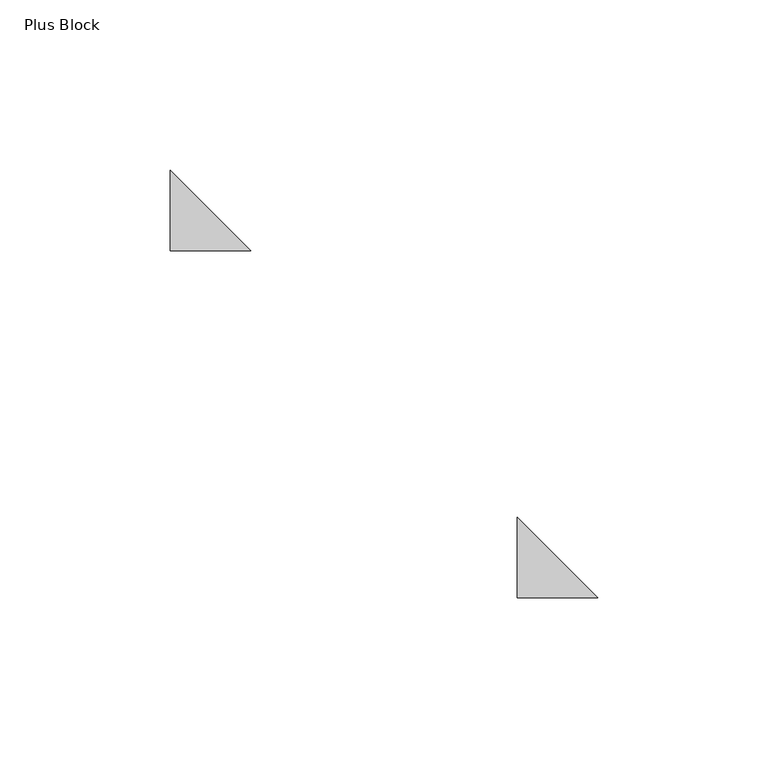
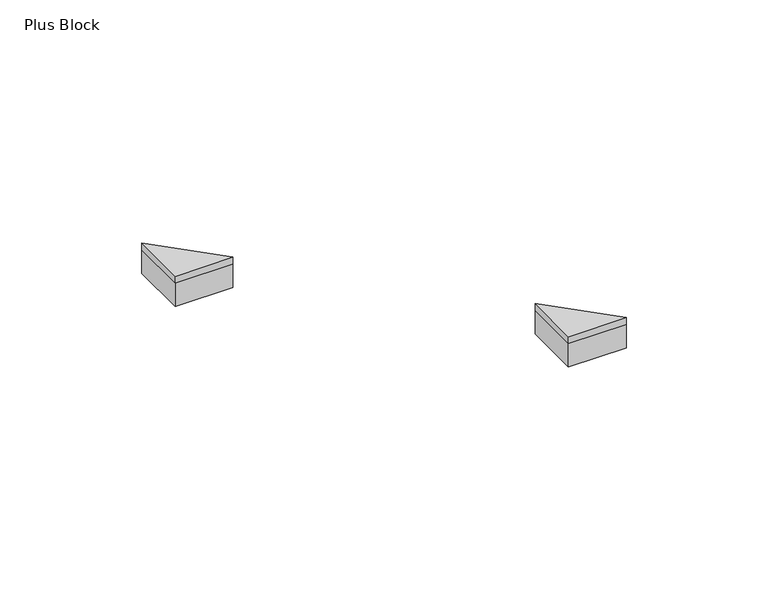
"""IFC4 building model written with IfcOpenShell, lengths in millimetres: proxy geometry, FilzFelt_Plus_Block : Plus Block."""

from ifc_helpers import new_model, si_unit, frame, origin, origin_with_axes, place, context, project, spatial, polyline, outline, extrude, source, transform, mapped, element, save


def plus_block_f5596ed8(model_context):
    return source(origin(), model_context, "Body", "SweptSolid", [
        extrude(outline(polyline([(-27.2541128, -152.5), (-50.8333333, -152.5), (-50.8333333, -128.9207795), (-27.2541128, -152.5)])), frame((0.0, 0.0, 10.0210937), z_axis=(0.0, 0.0, 1.0), x_axis=(1.0, 0.0, 0.0)), (0.0, 0.0, 1.0), 2.9765625),
        extrude(outline(polyline([(-128.9207795, -50.8333333), (-152.5, -50.8333333), (-152.5, -27.2541128), (-128.9207795, -50.8333333)])), frame((0.0, 0.0, 10.0210937), z_axis=(0.0, 0.0, 1.0), x_axis=(1.0, 0.0, 0.0)), (0.0, 0.0, 1.0), 2.9765625),
        extrude(outline(polyline([(-152.5, -50.8333333), (-152.5, -27.2541128), (-128.9207795, -50.8333333), (-152.5, -50.8333333)])), origin_with_axes(), (0.0, 0.0, 1.0), 10.0210938),
        extrude(outline(polyline([(-27.2541128, -152.5), (-50.8333333, -152.5), (-50.8333333, -128.9207795), (-27.2541128, -152.5)])), origin_with_axes(), (0.0, 0.0, 1.0), 10.0210938),
    ])


if __name__ == "__main__":
    model = new_model("IFC4")
    model_context = context("Model", 3, world=origin())
    ifc_project = project(units=[si_unit("LENGTHUNIT", "METRE", prefix="MILLI")], contexts=[model_context])
    site = spatial("IfcSite", under=ifc_project)
    building = spatial("IfcBuilding", under=site)
    placement = place(None, origin())
    plus_block_shape = plus_block_f5596ed8(model_context)
    element("IfcBuildingElementProxy", 1, Name="FilzFelt_Plus_Block : Plus Block", ObjectType="FilzFelt_Plus_Block : Plus Block", at=placement, inside=building, context=model_context, shape_type="MappedRepresentation", body=[
        mapped(plus_block_shape, transform((0.0, 0.0, 0.0), x_axis=(1.0, 0.0, 0.0), y_axis=(0.0, 1.0, 0.0), z_axis=(0.0, 0.0, 1.0))),
    ])
    save(model, "model.ifc")
